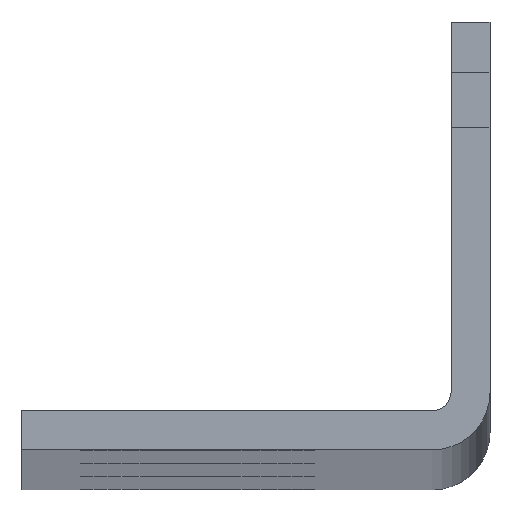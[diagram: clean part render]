
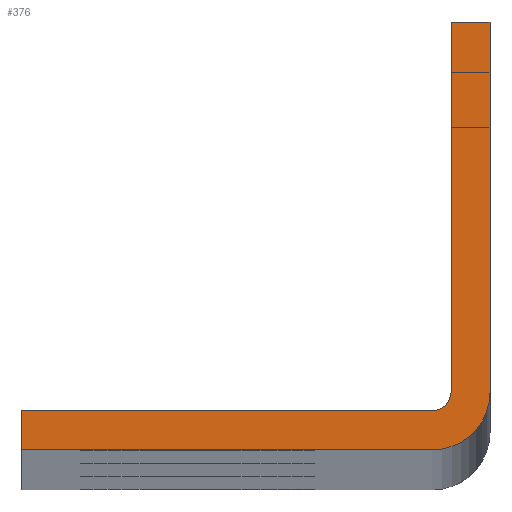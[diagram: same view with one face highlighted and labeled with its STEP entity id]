
A CAD part, top view. The second image highlights one B-rep face of the part: STEP entity #376.
In plain terms, the highlighted planar face has unit normal (0, 0, 1).
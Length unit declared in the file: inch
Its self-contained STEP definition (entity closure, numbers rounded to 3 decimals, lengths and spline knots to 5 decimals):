
#376 = ADVANCED_FACE( '', ( #1014 ), #1015, .T. );
#1014 = FACE_OUTER_BOUND( '', #1863, .T. );
#1015 = PLANE( '', #1864 );
#1863 = EDGE_LOOP( '', ( #2961, #2962, #2963, #2964, #2965, #2966, #2967, #2968 ) );
#1864 = AXIS2_PLACEMENT_3D( '', #2969, #2970, #2971 );
#2961 = ORIENTED_EDGE( '', *, *, #3813, .F. );
#2962 = ORIENTED_EDGE( '', *, *, #3498, .F. );
#2963 = ORIENTED_EDGE( '', *, *, #3814, .F. );
#2964 = ORIENTED_EDGE( '', *, *, #3815, .T. );
#2965 = ORIENTED_EDGE( '', *, *, #3628, .T. );
#2966 = ORIENTED_EDGE( '', *, *, #3816, .T. );
#2967 = ORIENTED_EDGE( '', *, *, #3479, .T. );
#2968 = ORIENTED_EDGE( '', *, *, #3529, .T. );
#2969 = CARTESIAN_POINT( '', ( 0.75, 0.125, 36.75 ) );
#2970 = DIRECTION( '', ( 0., 0., 1. ) );
#2971 = DIRECTION( '', ( 1., 0., 0. ) );
#3479 = EDGE_CURVE( '', #3979, #3983, #3985, .T. );
#3498 = EDGE_CURVE( '', #4014, #4012, #4016, .T. );
#3529 = EDGE_CURVE( '', #3983, #4064, #4066, .T. );
#3628 = EDGE_CURVE( '', #4245, #4243, #4246, .T. );
#3813 = EDGE_CURVE( '', #4012, #4064, #4545, .T. );
#3814 = EDGE_CURVE( '', #4546, #4014, #4547, .T. );
#3815 = EDGE_CURVE( '', #4546, #4245, #4548, .T. );
#3816 = EDGE_CURVE( '', #4243, #3979, #4549, .F. );
#3979 = VERTEX_POINT( '', #4763 );
#3983 = VERTEX_POINT( '', #4769 );
#3985 = LINE( '', #4772, #4773 );
#4012 = VERTEX_POINT( '', #4808 );
#4014 = VERTEX_POINT( '', #4811 );
#4016 = CIRCLE( '', #4814, 0.185 );
#4064 = VERTEX_POINT( '', #4864 );
#4066 = LINE( '', #4867, #4868 );
#4243 = VERTEX_POINT( '', #5054 );
#4245 = VERTEX_POINT( '', #5057 );
#4246 = LINE( '', #5058, #5059 );
#4545 = LINE( '', #5363, #5364 );
#4546 = VERTEX_POINT( '', #5365 );
#4547 = LINE( '', #5366, #5367 );
#4548 = LINE( '', #5368, #5369 );
#4549 = CIRCLE( '', #5370, 0.06 );
#4763 = CARTESIAN_POINT( '', ( 0.565, 0.125, 36.75 ) );
#4769 = CARTESIAN_POINT( '', ( -0.75, 0.125, 36.75 ) );
#4772 = CARTESIAN_POINT( '', ( 0.75, 0.125, 36.75 ) );
#4773 = VECTOR( '', #5589, 39.37008 );
#4808 = CARTESIAN_POINT( '', ( 0.565, 0., 36.75 ) );
#4811 = CARTESIAN_POINT( '', ( 0.75, 0.185, 36.75 ) );
#4814 = AXIS2_PLACEMENT_3D( '', #5612, #5613, #5614 );
#4864 = CARTESIAN_POINT( '', ( -0.75, 0., 36.75 ) );
#4867 = CARTESIAN_POINT( '', ( -0.75, 0.125, 36.75 ) );
#4868 = VECTOR( '', #5669, 39.37008 );
#5054 = CARTESIAN_POINT( '', ( 0.625, 0.185, 36.75 ) );
#5057 = CARTESIAN_POINT( '', ( 0.625, 1.371, 36.75 ) );
#5058 = CARTESIAN_POINT( '', ( 0.625, 0.11049, 36.75 ) );
#5059 = VECTOR( '', #5899, 39.37008 );
#5363 = CARTESIAN_POINT( '', ( 0.75, 0., 36.75 ) );
#5364 = VECTOR( '', #6244, 39.37008 );
#5365 = CARTESIAN_POINT( '', ( 0.75, 1.371, 36.75 ) );
#5366 = CARTESIAN_POINT( '', ( 0.75, 0.11049, 36.75 ) );
#5367 = VECTOR( '', #6245, 39.37008 );
#5368 = CARTESIAN_POINT( '', ( 0.75, 1.371, 36.75 ) );
#5369 = VECTOR( '', #6246, 39.37008 );
#5370 = AXIS2_PLACEMENT_3D( '', #6247, #6248, #6249 );
#5589 = DIRECTION( '', ( -1., 0., 0. ) );
#5612 = CARTESIAN_POINT( '', ( 0.565, 0.185, 36.75 ) );
#5613 = DIRECTION( '', ( 0., 0., -1. ) );
#5614 = DIRECTION( '', ( 0., 1., 0. ) );
#5669 = DIRECTION( '', ( 0., -1., 0. ) );
#5899 = DIRECTION( '', ( 0., -1., 0. ) );
#6244 = DIRECTION( '', ( -1., 0., 0. ) );
#6245 = DIRECTION( '', ( 0., -1., 0. ) );
#6246 = DIRECTION( '', ( -1., 0., 0. ) );
#6247 = CARTESIAN_POINT( '', ( 0.565, 0.185, 36.75 ) );
#6248 = DIRECTION( '', ( 0., 0., 1. ) );
#6249 = DIRECTION( '', ( 1., 0., 0. ) );
